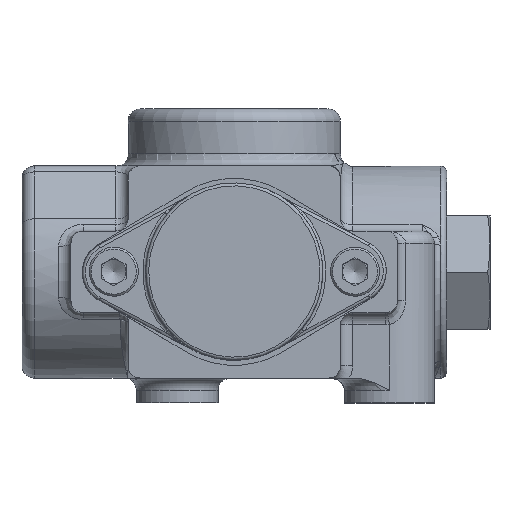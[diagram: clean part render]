
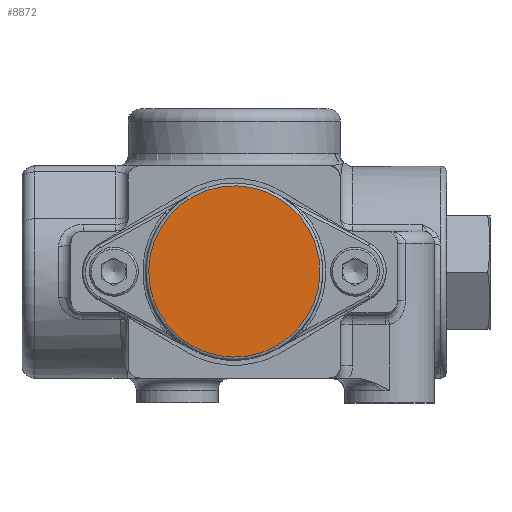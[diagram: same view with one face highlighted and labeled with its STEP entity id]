
A CAD part, top view. The second image highlights one B-rep face of the part: STEP entity #8872.
In plain terms, the highlighted planar face has unit normal (0, 0, 1).
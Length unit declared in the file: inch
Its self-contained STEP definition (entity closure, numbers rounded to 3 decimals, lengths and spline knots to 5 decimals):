
#1478=PLANE('',#9570);
#1943=FACE_OUTER_BOUND('',#2546,.T.);
#2546=EDGE_LOOP('',(#6063));
#3178=CIRCLE('',#9569,0.6555);
#3775=VERTEX_POINT('',#13983);
#4640=EDGE_CURVE('',#3775,#3775,#3178,.T.);
#6063=ORIENTED_EDGE('',*,*,#4640,.F.);
#8872=ADVANCED_FACE('',(#1943),#1478,.T.);
#9569=AXIS2_PLACEMENT_3D('',#13984,#10971,#10972);
#9570=AXIS2_PLACEMENT_3D('',#13985,#10973,#10974);
#10971=DIRECTION('center_axis',(0.,0.,
-1.));
#10972=DIRECTION('ref_axis',(0.481,-0.877,0.));
#10973=DIRECTION('center_axis',(0.,0.,
1.));
#10974=DIRECTION('ref_axis',(0.481,-0.877,0.));
#13983=CARTESIAN_POINT('',(0.49736,1.38728,5.2));
#13984=CARTESIAN_POINT('Origin',(0.8125,0.8125,5.2));
#13985=CARTESIAN_POINT('Origin',(0.8125,0.8125,5.2));
